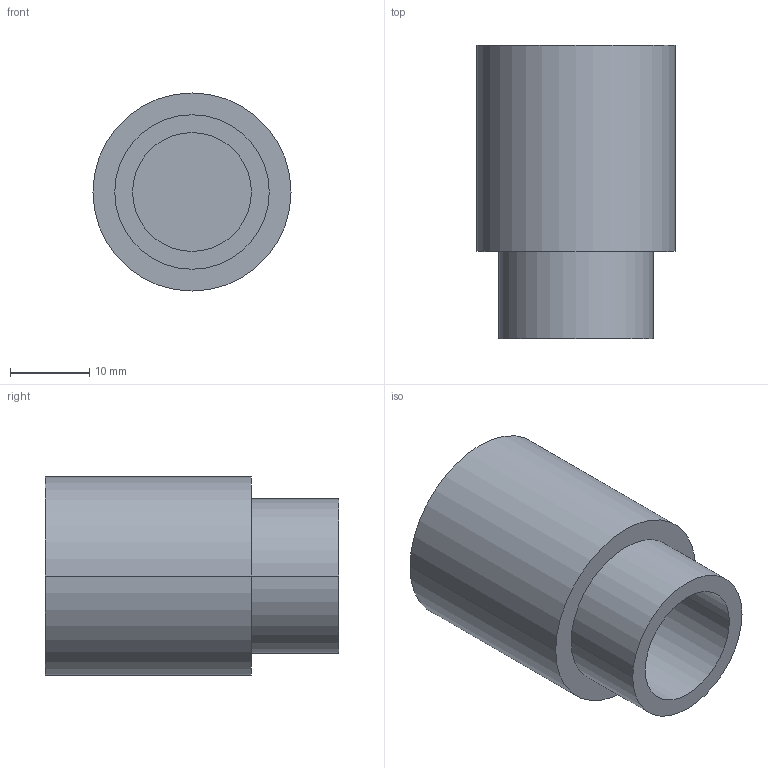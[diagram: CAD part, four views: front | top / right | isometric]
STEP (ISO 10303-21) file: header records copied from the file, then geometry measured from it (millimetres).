
FILE_DESCRIPTION((''),'2;1');
FILE_NAME('1827010689','2015-07-23T',('UAH1HC'),(''),'PRO/ENGINEER BY PARAMETRIC TECHNOLOGY CORPORATION, 2012421','PRO/ENGINEER BY PARAMETRIC TECHNOLOGY CORPORATION, 2012421','');
FILE_SCHEMA(('CONFIG_CONTROL_DESIGN','SHAPE_APPEARANCE_LAYERS_GROUPS'));
Length unit declared in the file: millimetre
Products named in the file (1): 1827010689
Bounding box: 25 x 37 x 25 mm (x, y, z)
Volume: 9907 mm3; surface area: 5335.2 mm2
Topology: 1 solids, 1 shells, 10 faces, 18 edges, 12 vertices
Faces by surface type: cylinder 6, plane 4
Entity records: 304 total; most frequent: DIRECTION 50, CARTESIAN_POINT 40, ORIENTED_EDGE 36, AXIS2_PLACEMENT_3D 22, EDGE_CURVE 18, VERTEX_POINT 12, EDGE_LOOP 12, CIRCLE 12
